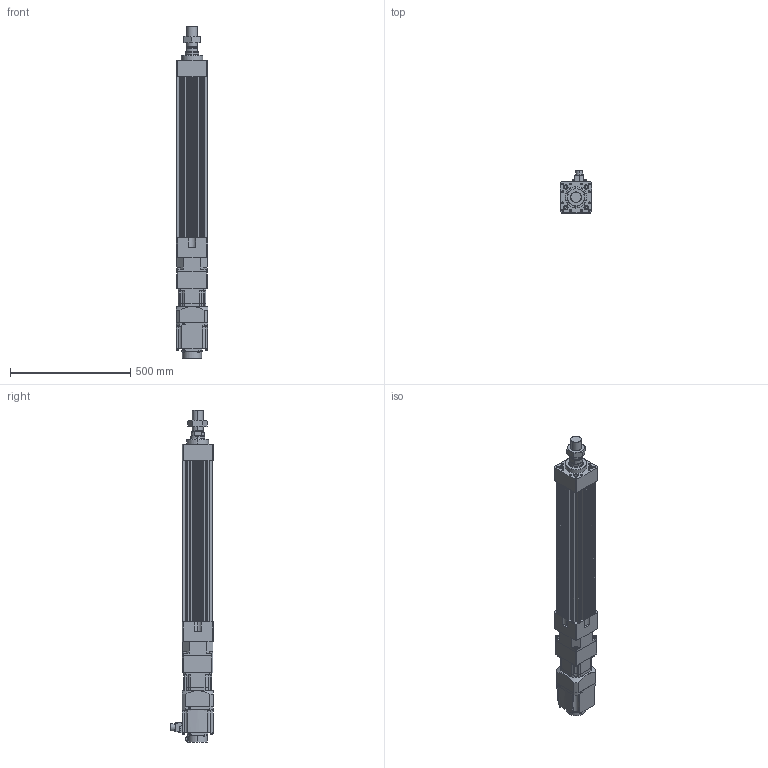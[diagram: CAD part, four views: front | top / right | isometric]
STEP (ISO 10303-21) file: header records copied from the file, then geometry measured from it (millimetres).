
FILE_DESCRIPTION (( 'STEP AP203' ), '1' );
FILE_NAME ('HES130NS(FS)(HS)-S450-W015G00-M.STEP', '2023-01-30T08:17:44', ( 'tms' ), ( '' ), 'SwSTEP 2.0', 'SolidWorks 2013', '' );
FILE_SCHEMA (( 'CONFIG_CONTROL_DESIGN' ));
Length unit declared in the file: millimetre
Products named in the file (8): HES130 ROD M ST450; HES130NS(FS)(HS)-S450-W015G00-M; AB1151; AB115-003[HG-SR152]; M45X1.5P; HG-SR152; HES130-S450-G120; P0401400706
Assembly tree (7 placements, depth 3):
  HES130NS(FS)(HS)-S450-W015G00-M
    HES130-S450-G120
    HES130 ROD M ST450
    M45X1.5P
    AB115-003[HG-SR152]
      AB1151
      P0401400706
    HG-SR152
Bounding box: 130 x 177.49 x 1379.5 mm (x, y, z)
Volume: 10760568.5 mm3; surface area: 1389087.4 mm2
Topology: 4 solids, 15 shells, 1220 faces, 3076 edges, 1983 vertices
Faces by surface type: cylinder 553, plane 551, cone 104, bspline 8, torus 4
Entity records: 38254 total; most frequent: CARTESIAN_POINT 7242, DIRECTION 6653, ORIENTED_EDGE 6060, EDGE_CURVE 3040, AXIS2_PLACEMENT_3D 2462, VERTEX_POINT 1983, LINE 1729, VECTOR 1729
